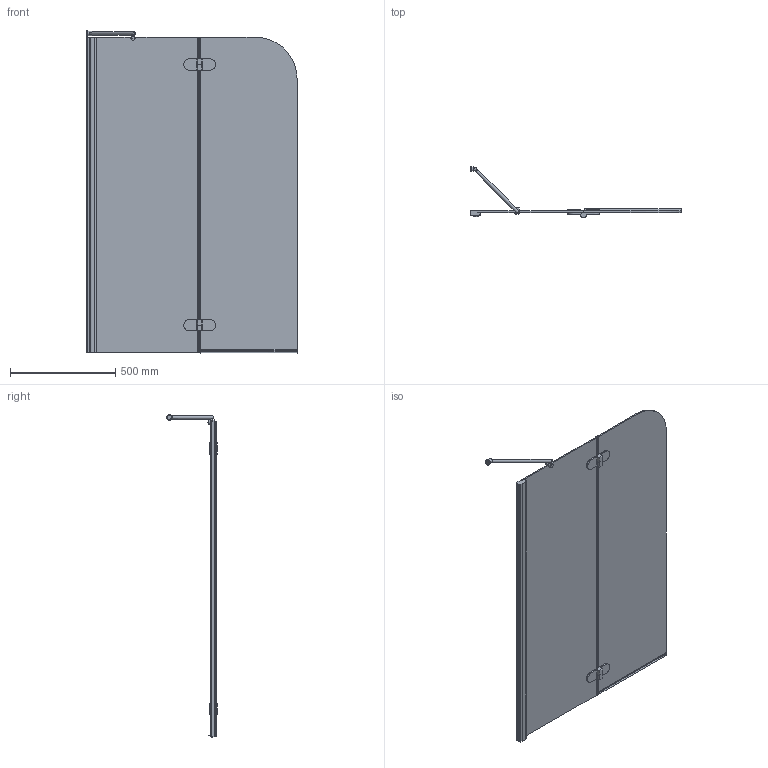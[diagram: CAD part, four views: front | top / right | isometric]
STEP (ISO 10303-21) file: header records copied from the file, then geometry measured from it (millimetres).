
FILE_DESCRIPTION(/* description */ (''),/* implementation_level */ '2;1');
FILE_NAME(/* name */ 'E:\Работа\Сергей\Душевые кабинки\! Работа\LUX PEARL GV-102A\LUX PEARL GV-102A левая модель\LUX PEARL GV-102A ЛЕВАЯ-3D.stp',/* time_stamp */ '2017-08-15T19:38:23+03:00',/* author */ ('PC'),/* organization */ (''),/* preprocessor_version */ 'ST-DEVELOPER v15.2',/* originating_system */ 'Autodesk Inventor 2014',/* authorisation */ '');
FILE_SCHEMA (('AUTOMOTIVE_DESIGN { 1 0 10303 214 3 1 1 }'));
Length unit declared in the file: millimetre
Products named in the file (1): LUX PEARL GV-102A ЛЕВАЯ-3D
Bounding box: 1000.2 x 241.4 x 1533.9 mm (x, y, z)
Volume: 10525864.4 mm3; surface area: 3210791.2 mm2
Topology: 2 solids, 2 shells, 234 faces, 648 edges, 432 vertices
Faces by surface type: plane 148, cylinder 81, bspline 2, sphere 2, torus 1
Full cylindrical faces by diameter (mm): 12 x1, 15 x1, 20 x2, 26 x1
Entity records: 7864 total; most frequent: CARTESIAN_POINT 1558, ORIENTED_EDGE 1258, DIRECTION 1245, EDGE_CURVE 629, LINE 439, VECTOR 439, VERTEX_POINT 422, AXIS2_PLACEMENT_3D 403
